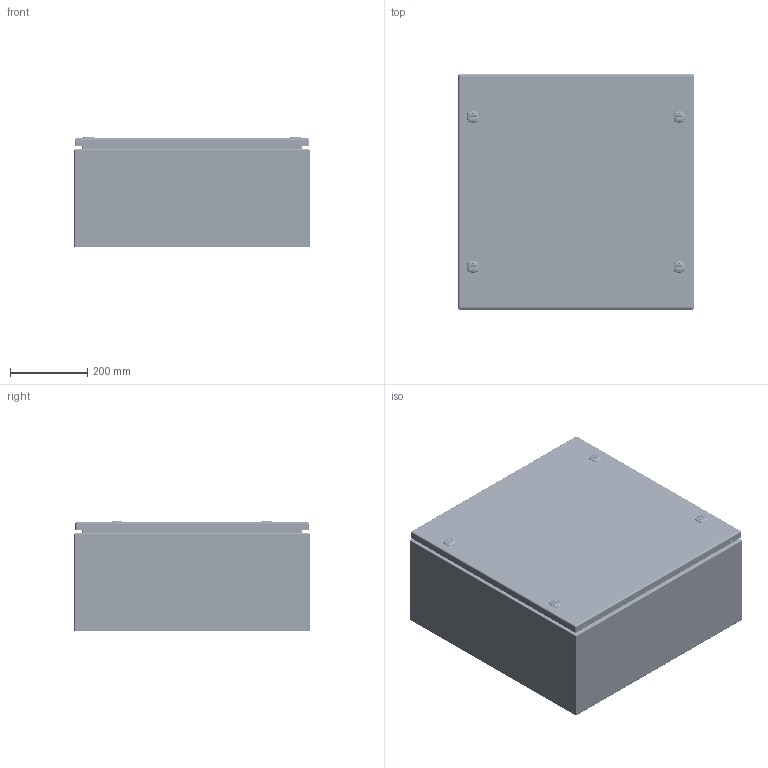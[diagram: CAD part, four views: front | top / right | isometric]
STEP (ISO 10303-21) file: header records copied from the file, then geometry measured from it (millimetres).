
FILE_DESCRIPTION(/* description */ ('5412ESQT 24" x 24" x 10" Assembly'),/* implementation_level */ '2;1');
FILE_NAME(/* name */ 'C:\Vault_Workspace\Inventor_Dwg\BoxCad\Result\5412ESQT242410\e-mail\3D\5412ESQT242410.stp',/* time_stamp */ '2021-05-05T07:13:52-04:00',/* author */ ('BoxCad'),/* organization */ (''),/* preprocessor_version */ 'ST-DEVELOPER v18.1',/* originating_system */ 'Autodesk Inventor 2020',/* authorisation */ '');
FILE_SCHEMA (('AUTOMOTIVE_DESIGN { 1 0 10303 214 3 1 1 }'));
Products named in the file (42): 5412ESQT242410; 5412ESQT242410B; 5412ESQT242410B-P; STK-Q-16005; STUD_M6 x 16mm; STK-Q-07610; 881SP2424G; 881SP2424G-P; STK-Q-07310; 5412ESQT242410C; 5412ESQT242410C-P; 5412ESQT242410G; STK-Q-46020-24; STK-Q-07220-1; STK-Q-07220-2; STK-Q-07220-3; STK-Q-07220-4; STK-Q-07220-A; STK-Q-07220-B; STK-Q-46515-1; STK-Q-46515-2; STK-Q-46515-3; STK-Q-16055; STK-Q-46515-4; STK-Q-46515-B; STK-Q-46515-A; STK-P-02400S; STK-S-00100; STK-A-880SCQ4-SL-1; STK-A-880SCQ4-SL-2; STK-A-880SCQ4-SL-3; STK-A-880SCQ4-SL-4; STK-Q-78110; STK-Q-78120; STK-Q-78145; STK-Q-03200; STK-Q-78125; STK-Q-78141; STK-Q-90390; STK-Q-78160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
Assembly tree (95 placements, depth 4):
  5412ESQT242410
    5412ESQT242410B
      5412ESQT242410B-P
      STK-Q-16005  x4
      STK-P-02400S
      STUD_M6 x 16mm
    STK-Q-07610  x4
    881SP2424G
      881SP2424G-P
    STK-Q-07310  x4
    5412ESQT242410C
      5412ESQT242410C-P
      5412ESQT242410G
      STK-Q-16055  x8
      STK-Q-46020-24  x2
      STK-Q-07220-1
        STK-Q-07220-A
        STK-Q-07220-B
      STK-Q-07220-2
        STK-Q-07220-A
        STK-Q-07220-B
      STK-Q-07220-3
        STK-Q-07220-A
        STK-Q-07220-B
      STK-Q-07220-4
        STK-Q-07220-A
        STK-Q-07220-B
      STK-Q-46515-1
        STK-Q-46515-B
        STK-Q-46515-A
      STK-Q-46515-2
        STK-Q-46515-B
        STK-Q-46515-A
      STK-Q-46515-3
        STK-Q-46515-B
        STK-Q-46515-A
      STK-Q-46515-4
        STK-Q-46515-B
        STK-Q-46515-A
      STK-P-02400S
      STK-S-00100
      STK-A-880SCQ4-SL-1
        STK-Q-78110
        STK-Q-78120
        STK-Q-78145
        STK-Q-03200
        STK-Q-78125
        STK-Q-78141
        STK-Q-90390
        STK-Q-78160
      STK-A-880SCQ4-SL-2
        STK-Q-78110
        STK-Q-78120
        STK-Q-78145
        STK-Q-03200
        STK-Q-78125
        STK-Q-78141
        STK-Q-90390
        STK-Q-78160
      STK-A-880SCQ4-SL-3
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Bounding box: 609.6 x 609.6 x 286.58 mm (x, y, z)
Volume: 3222023.9 mm3; surface area: 3965526.4 mm2
Topology: 76 solids, 76 shells, 13121 faces, 35580 edges, 22815 vertices
Faces by surface type: bspline 4844, plane 4372, cylinder 2988, torus 515, cone 226, sphere 176
Full cylindrical faces by diameter (mm): 0 x1, 0.75 x13, 0.762 x13, 4.191 x40, 4.5 x8, 5 x4, 5.1 x56, 5.105 x52, 5.156 x4, 5.9 x33, 6.015 x40, 6.65 x4, 6.8 x4, 6.85 x16, 7.366 x4, 7.468 x8, 7.9 x8, 8 x12, 9.5 x4, 9.6 x4, 9.654 x4, 9.906 x4, 10 x4, 12.7 x4, 12.8 x4, 13 x4, 15.9 x4, 16 x4, 18.2 x4, 19.7 x4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
Entity records: 133823 total; most frequent: CARTESIAN_POINT 57004, ORIENTED_EDGE 17904, DIRECTION 11985, EDGE_CURVE 8952, VERTEX_POINT 5749, AXIS2_PLACEMENT_3D 4147, LINE 3691, VECTOR 3691
